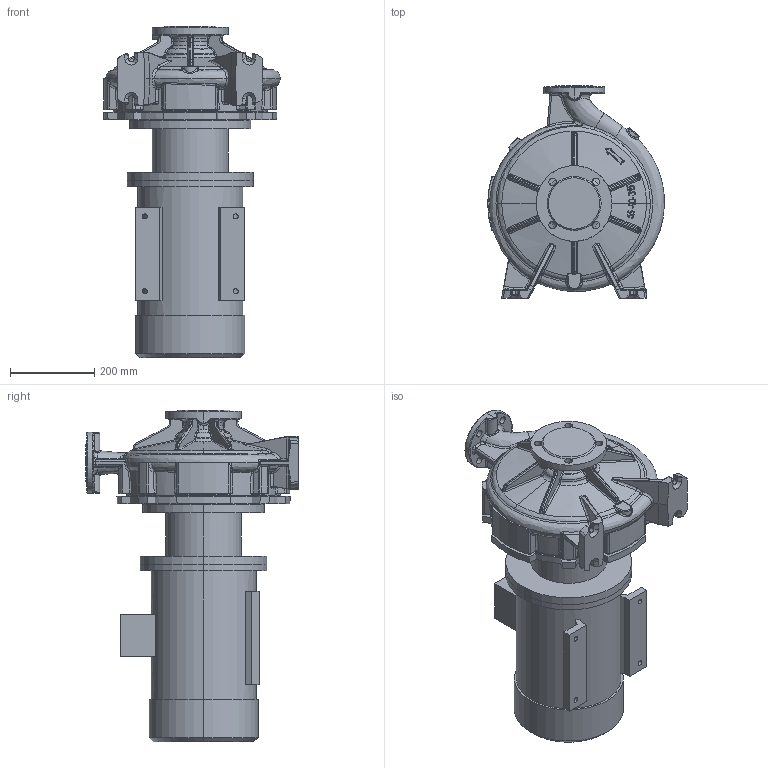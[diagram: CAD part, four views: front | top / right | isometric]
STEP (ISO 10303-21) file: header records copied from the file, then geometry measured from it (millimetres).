
FILE_DESCRIPTION (( 'STEP AP203' ), '1' );
FILE_NAME ('KRM 65-40-315-4-7,5.STEP', '2026-09-21T07:53:34', ( '' ), ( '' ), 'SwSTEP 2.0', 'SolidWorks 2016', '' );
FILE_SCHEMA (( 'CONFIG_CONTROL_DESIGN' ));
Length unit declared in the file: millimetre
Products named in the file (1): KRM 65-40-315-4-7,5
Bounding box: 419.86 x 505 x 787.8 mm (x, y, z)
Volume: 47792678.9 mm3; surface area: 1901397.7 mm2
Topology: 12 solids, 12 shells, 1512 faces, 3768 edges, 2243 vertices
Faces by surface type: bspline 628, cylinder 327, plane 293, torus 147, cone 85, sphere 32
Entity records: 92327 total; most frequent: CARTESIAN_POINT 61401, ORIENTED_EDGE 7396, DIRECTION 5197, EDGE_CURVE 3698, VERTEX_POINT 2239, AXIS2_PLACEMENT_3D 2126, EDGE_LOOP 1565, FACE_OUTER_BOUND 1512
